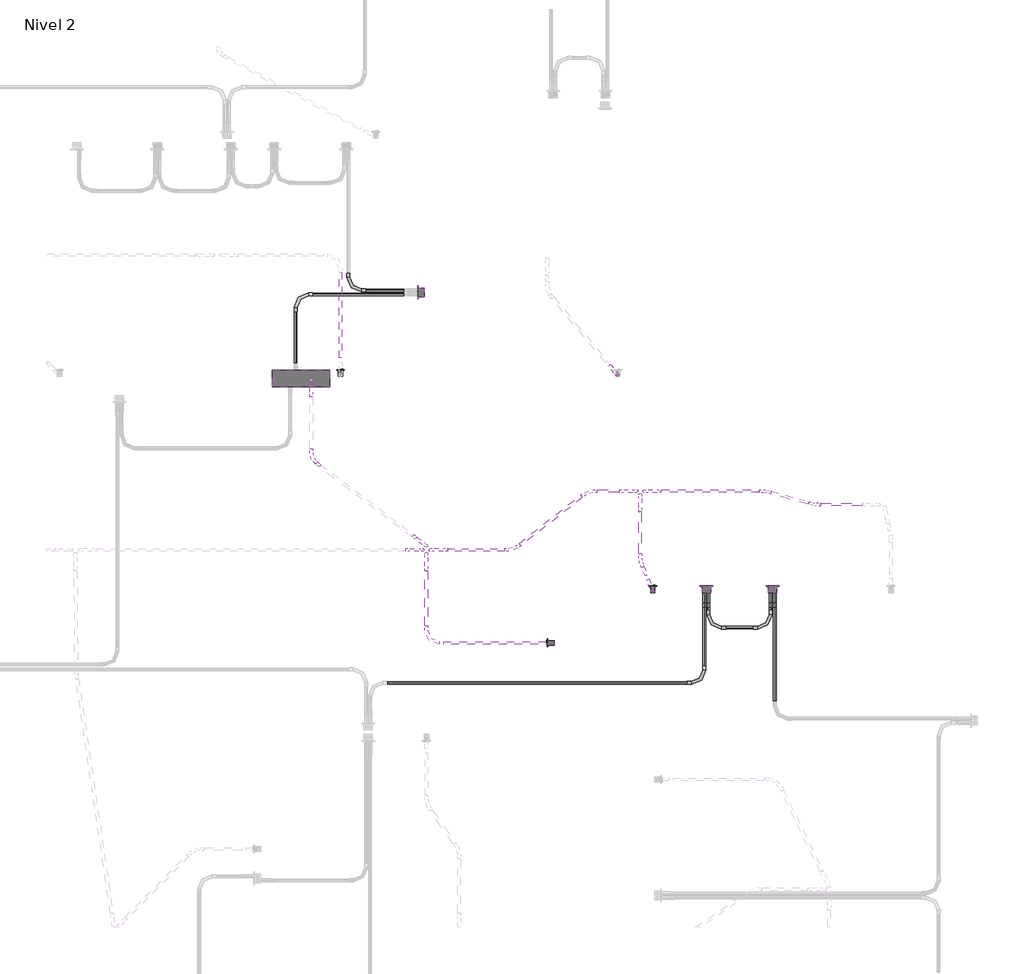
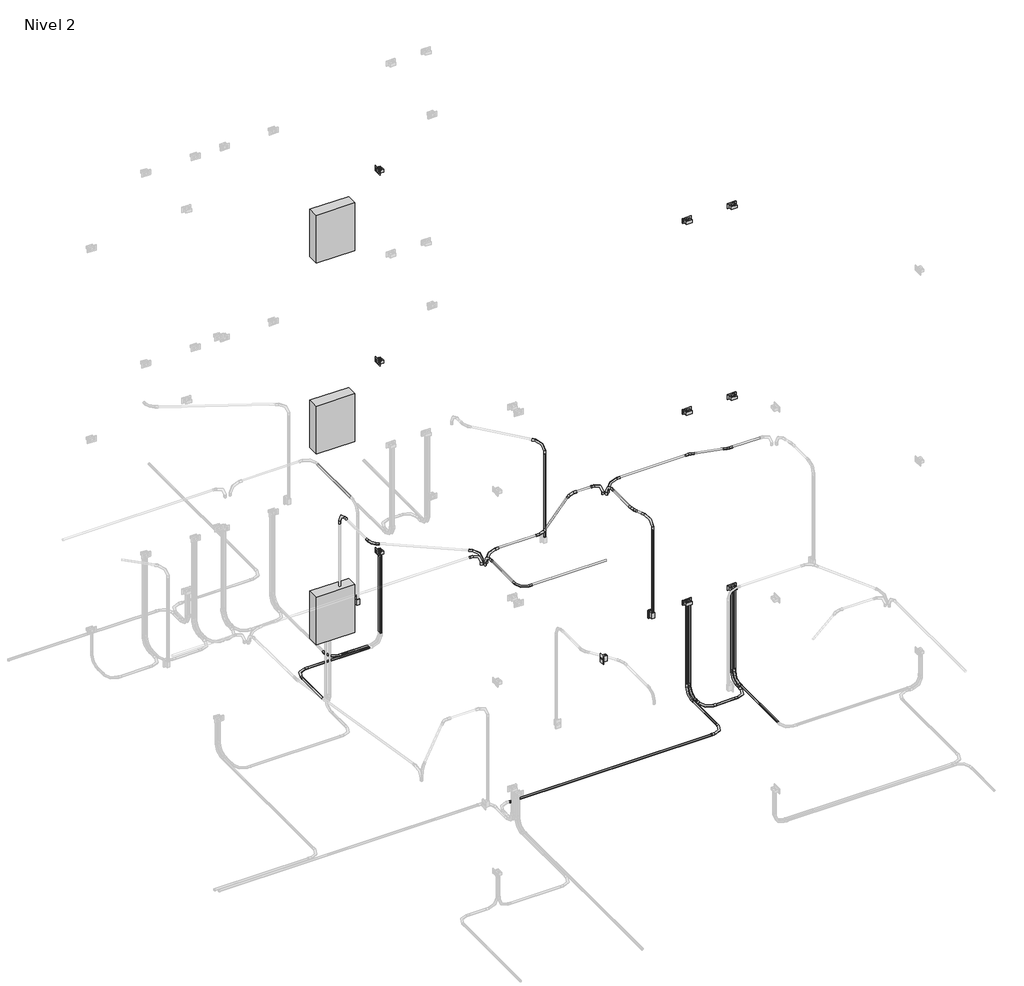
# One storey, part 4 of 10: 28 cable carrier segments, 26 cable carrier fittings, 12 proxies, 3 switching devices.
"""IFC4 building model written with IfcOpenShell, lengths in millimetres."""

from ifc_helpers import new_model, si_unit, point, frame, frame_2d, origin, place, context, project, spatial, circle_curve, trimmed, segment, composite_curve, outline, extrude, transform, mapped, element, save
from components import proxy_125_a_fe578df2, gfci_180f1b41, m_codo_de_tubo_extremo_liso_pvc_9da73e12, m_codo_de_tubo_extremo_liso_pvc_102f0f41, m_codo_de_tubo_extremo_liso_pvc_ceb821ea, m_codo_de_tubo_extremo_liso_pvc_a7355fb1, m_codo_de_tubo_extremo_liso_pvc_d450ba0d, m_codo_de_tubo_extremo_liso_pvc_c9202d06, switching_device_22fed34b

model = new_model("IFC4")

# Units and contexts
model_context = context("Model", 3, world=origin())
ifc_project = project(units=[si_unit("LENGTHUNIT", "METRE", prefix="MILLI")], contexts=[model_context])

# Site, building, storey
site = spatial("IfcSite", under=ifc_project)
building = spatial("IfcBuilding", under=site)
storey = spatial("IfcBuildingStorey", under=building, Name="Nivel 2", Elevation=2800.0)

# Proxies
placement = place(None, origin())
proxy_125_a_shape = proxy_125_a_fe578df2(model_context)
element("IfcBuildingElementProxy", 1, Name="M_Cuadro de control de accesorios e iluminación - 480V MLO : 125 A", ObjectType="M_Cuadro de control de accesorios e iluminación - 480V MLO : 125 A", at=placement, inside=storey, context=model_context, shape_type="MappedRepresentation", body=[
    mapped(proxy_125_a_shape, transform((3147.3172593, 7015.0, 3626.1274047), x_axis=(-1.0, 0.0, 0.0), y_axis=(0.0, 0.0, 1.0), z_axis=(0.0, 1.0, 0.0))),
])
element("IfcBuildingElementProxy", 2, Name="M_Cuadro de control de accesorios e iluminación - 480V MLO : 125 A", ObjectType="M_Cuadro de control de accesorios e iluminación - 480V MLO : 125 A", at=placement, inside=storey, context=model_context, shape_type="MappedRepresentation", body=[
    mapped(proxy_125_a_shape, transform((3147.3172593, 7015.0, 6276.1274047), x_axis=(-1.0, 0.0, 0.0), y_axis=(0.0, 0.0, 1.0), z_axis=(0.0, 1.0, 0.0))),
])
element("IfcBuildingElementProxy", 3, Name="M_Cuadro de control de accesorios e iluminación - 480V MLO : 125 A", ObjectType="M_Cuadro de control de accesorios e iluminación - 480V MLO : 125 A", at=placement, inside=storey, context=model_context, shape_type="MappedRepresentation", body=[
    mapped(proxy_125_a_shape, transform((3147.3172593, 7015.0, 8926.1274047), x_axis=(-1.0, 0.0, 0.0), y_axis=(0.0, 0.0, 1.0), z_axis=(0.0, 1.0, 0.0))),
])
gfci_shape = gfci_180f1b41(model_context)
element("IfcBuildingElementProxy", 4, Name="Tomacorriente doble 220V : GFCI", ObjectType="Tomacorriente doble 220V : GFCI", at=placement, inside=storey, context=model_context, shape_type="MappedRepresentation", body=[
    mapped(gfci_shape, transform((4185.0, 7705.161459, 4000.0), x_axis=(0.0, 0.0, 1.0), y_axis=(0.0, 1.0, 0.0), z_axis=(-1.0, 0.0, 0.0))),
])
element("IfcBuildingElementProxy", 5, Name="Tomacorriente doble 220V : GFCI", ObjectType="Tomacorriente doble 220V : GFCI", at=placement, inside=storey, context=model_context, shape_type="MappedRepresentation", body=[
    mapped(gfci_shape, transform((7325.0972257, 5100.0, 4000.0), x_axis=(0.0, 0.0, 1.0), y_axis=(1.0, 0.0, 0.0), z_axis=(0.0, 1.0, 0.0))),
])
element("IfcBuildingElementProxy", 6, Name="Tomacorriente doble 220V : GFCI", ObjectType="Tomacorriente doble 220V : GFCI", at=placement, inside=storey, context=model_context, shape_type="MappedRepresentation", body=[
    mapped(gfci_shape, transform((6737.4583335, 5100.0, 4000.0), x_axis=(0.0, 0.0, 1.0), y_axis=(1.0, 0.0, 0.0), z_axis=(0.0, 1.0, 0.0))),
])
element("IfcBuildingElementProxy", 7, Name="Tomacorriente doble 220V : GFCI", ObjectType="Tomacorriente doble 220V : GFCI", at=placement, inside=storey, context=model_context, shape_type="MappedRepresentation", body=[
    mapped(gfci_shape, transform((4185.0, 7705.161459, 6650.0), x_axis=(0.0, 0.0, 1.0), y_axis=(0.0, 1.0, 0.0), z_axis=(-1.0, 0.0, 0.0))),
])
element("IfcBuildingElementProxy", 8, Name="Tomacorriente doble 220V : GFCI", ObjectType="Tomacorriente doble 220V : GFCI", at=placement, inside=storey, context=model_context, shape_type="MappedRepresentation", body=[
    mapped(gfci_shape, transform((7325.0972257, 5100.0, 6650.0), x_axis=(0.0, 0.0, 1.0), y_axis=(1.0, 0.0, 0.0), z_axis=(0.0, 1.0, 0.0))),
])
element("IfcBuildingElementProxy", 9, Name="Tomacorriente doble 220V : GFCI", ObjectType="Tomacorriente doble 220V : GFCI", at=placement, inside=storey, context=model_context, shape_type="MappedRepresentation", body=[
    mapped(gfci_shape, transform((6737.4583335, 5100.0, 6650.0), x_axis=(0.0, 0.0, 1.0), y_axis=(1.0, 0.0, 0.0), z_axis=(0.0, 1.0, 0.0))),
])
element("IfcBuildingElementProxy", 10, Name="Tomacorriente doble 220V : GFCI", ObjectType="Tomacorriente doble 220V : GFCI", at=placement, inside=storey, context=model_context, shape_type="MappedRepresentation", body=[
    mapped(gfci_shape, transform((4185.0, 7705.161459, 9300.0), x_axis=(0.0, 0.0, 1.0), y_axis=(0.0, 1.0, 0.0), z_axis=(-1.0, 0.0, 0.0))),
])
element("IfcBuildingElementProxy", 11, Name="Tomacorriente doble 220V : GFCI", ObjectType="Tomacorriente doble 220V : GFCI", at=placement, inside=storey, context=model_context, shape_type="MappedRepresentation", body=[
    mapped(gfci_shape, transform((7325.0972257, 5100.0, 9300.0), x_axis=(0.0, 0.0, 1.0), y_axis=(1.0, 0.0, 0.0), z_axis=(0.0, 1.0, 0.0))),
])
element("IfcBuildingElementProxy", 12, Name="Tomacorriente doble 220V : GFCI", ObjectType="Tomacorriente doble 220V : GFCI", at=placement, inside=storey, context=model_context, shape_type="MappedRepresentation", body=[
    mapped(gfci_shape, transform((6737.4583335, 5100.0, 9300.0), x_axis=(0.0, 0.0, 1.0), y_axis=(1.0, 0.0, 0.0), z_axis=(0.0, 1.0, 0.0))),
])

# Cable carrier fittings
m_codo_de_tubo_extremo_liso_pvc_shape = m_codo_de_tubo_extremo_liso_pvc_9da73e12(model_context)
element("IfcCableCarrierFitting", 13, ObjectType="M_Codo de tubo - Extremo liso - PVC : CODO POTENCIA", at=placement, inside=storey, context=model_context, shape_type="MappedRepresentation", body=[
    mapped(m_codo_de_tubo_extremo_liso_pvc_shape, transform((3566.4756648, 7723.1932788, 2730.0), x_axis=(0.0, -1.0, 0.0), y_axis=(1.0, 0.0, 0.0), z_axis=(0.0, 0.0, 1.0))),
])
element("IfcCableCarrierFitting", 14, ObjectType="M_Codo de tubo - Extremo liso - PVC : CODO POTENCIA", at=placement, inside=storey, context=model_context, shape_type="MappedRepresentation", body=[
    mapped(m_codo_de_tubo_extremo_liso_pvc_shape, transform((3099.8874089, 7687.1296392, 2730.0), x_axis=(-1.0, 0.0, 0.0), y_axis=(0.0, -1.0, 0.0), z_axis=(0.0, 0.0, 1.0))),
])
element("IfcCableCarrierFitting", 15, ObjectType="M_Codo de tubo - Extremo liso - PVC : CODO POTENCIA", at=placement, inside=storey, context=model_context, shape_type="MappedRepresentation", body=[
    mapped(m_codo_de_tubo_extremo_liso_pvc_shape, transform((7343.1290455, 5070.3628882, 2730.0), x_axis=(0.0, 0.0, -1.0), y_axis=(0.0, -1.0, 0.0), z_axis=(-1.0, 0.0, 0.0))),
])
element("IfcCableCarrierFitting", 16, ObjectType="M_Codo de tubo - Extremo liso - PVC : CODO POTENCIA", at=placement, inside=storey, context=model_context, shape_type="MappedRepresentation", body=[
    mapped(m_codo_de_tubo_extremo_liso_pvc_shape, transform((7307.0654059, 5070.3628882, 2730.0), x_axis=(0.0, 0.0, -1.0), y_axis=(0.0, -1.0, 0.0), z_axis=(-1.0, 0.0, 0.0))),
])
element("IfcCableCarrierFitting", 17, ObjectType="M_Codo de tubo - Extremo liso - PVC : CODO POTENCIA", at=placement, inside=storey, context=model_context, shape_type="MappedRepresentation", body=[
    mapped(m_codo_de_tubo_extremo_liso_pvc_shape, transform((6755.4901534, 5070.3628882, 2730.0), x_axis=(0.0, 0.0, -1.0), y_axis=(0.0, -1.0, 0.0), z_axis=(-1.0, 0.0, 0.0))),
])
element("IfcCableCarrierFitting", 18, ObjectType="M_Codo de tubo - Extremo liso - PVC : CODO POTENCIA", at=placement, inside=storey, context=model_context, shape_type="MappedRepresentation", body=[
    mapped(m_codo_de_tubo_extremo_liso_pvc_shape, transform((6719.4265137, 5070.3628882, 2730.0), x_axis=(0.0, 0.0, -1.0), y_axis=(0.0, -1.0, 0.0), z_axis=(-1.0, 0.0, 0.0))),
])
element("IfcCableCarrierFitting", 19, ObjectType="M_Codo de tubo - Extremo liso - PVC : CODO POTENCIA", at=placement, inside=storey, context=model_context, shape_type="MappedRepresentation", body=[
    mapped(m_codo_de_tubo_extremo_liso_pvc_shape, transform((7307.0654059, 4735.4544528, 2730.0), x_axis=(1.0, 0.0, 0.0), y_axis=(0.0, 1.0, 0.0), z_axis=(0.0, 0.0, 1.0))),
])
element("IfcCableCarrierFitting", 20, ObjectType="M_Codo de tubo - Extremo liso - PVC : CODO POTENCIA", at=placement, inside=storey, context=model_context, shape_type="MappedRepresentation", body=[
    mapped(m_codo_de_tubo_extremo_liso_pvc_shape, transform((6755.4901534, 4735.4544528, 2730.0), x_axis=(0.0, -1.0, 0.0), y_axis=(1.0, 0.0, 0.0), z_axis=(0.0, 0.0, 1.0))),
])
element("IfcCableCarrierFitting", 21, ObjectType="M_Codo de tubo - Extremo liso - PVC : CODO POTENCIA", at=placement, inside=storey, context=model_context, shape_type="MappedRepresentation", body=[
    mapped(m_codo_de_tubo_extremo_liso_pvc_shape, transform((6719.4265137, 4245.3628882, 2730.0), x_axis=(1.0, 0.0, 0.0), y_axis=(0.0, 1.0, 0.0), z_axis=(0.0, 0.0, 1.0))),
])
element("IfcCableCarrierFitting", 22, ObjectType="M_Codo de tubo - Extremo liso - PVC : CODO ILUMINACION", at=placement, inside=storey, context=model_context, shape_type="MappedRepresentation", body=[
    mapped(m_codo_de_tubo_extremo_liso_pvc_shape, transform((4293.3404165, 5423.1835713, 5350.0), x_axis=(-1.0, 0.0, 0.0), y_axis=(0.0, 0.0, -1.0), z_axis=(0.0, -1.0, 0.0))),
])
element("IfcCableCarrierFitting", 23, ObjectType="M_Codo de tubo - Extremo liso - PVC : CODO ILUMINACION", at=placement, inside=storey, context=model_context, shape_type="MappedRepresentation", body=[
    mapped(m_codo_de_tubo_extremo_liso_pvc_shape, transform((6187.5450067, 5945.2494875, 5350.0), x_axis=(-1.0, 0.0, 0.0), y_axis=(0.0, 0.0, -1.0), z_axis=(0.0, -1.0, 0.0))),
])
element("IfcCableCarrierFitting", 24, ObjectType="M_Codo de tubo - Extremo liso - PVC : CODO ILUMINACION", at=placement, inside=storey, context=model_context, shape_type="MappedRepresentation", body=[
    mapped(m_codo_de_tubo_extremo_liso_pvc_shape, transform((4257.1192172, 5391.3745096, 5350.0), x_axis=(0.0, 1.0, 0.0), y_axis=(0.0, 0.0, -1.0), z_axis=(-1.0, 0.0, 0.0))),
])
element("IfcCableCarrierFitting", 25, ObjectType="M_Codo de tubo - Extremo liso - PVC : CODO ILUMINACION", at=placement, inside=storey, context=model_context, shape_type="MappedRepresentation", body=[
    mapped(m_codo_de_tubo_extremo_liso_pvc_shape, transform((4257.1192172, 4599.1450877, 5350.0), x_axis=(0.0, -1.0, 0.0), y_axis=(1.0, 0.0, 0.0), z_axis=(0.0, 0.0, 1.0))),
])
element("IfcCableCarrierFitting", 26, ObjectType="M_Codo de tubo - Extremo liso - PVC : CODO ILUMINACION", at=placement, inside=storey, context=model_context, shape_type="MappedRepresentation", body=[
    mapped(m_codo_de_tubo_extremo_liso_pvc_shape, transform((6151.3238073, 5913.4404259, 5350.0), x_axis=(0.0, 1.0, 0.0), y_axis=(0.0, 0.0, -1.0), z_axis=(-1.0, 0.0, 0.0))),
])
element("IfcCableCarrierFitting", 27, ObjectType="M_Codo de tubo - Extremo liso - PVC : CODO ILUMINACION", at=placement, inside=storey, context=model_context, shape_type="MappedRepresentation", body=[
    mapped(m_codo_de_tubo_extremo_liso_pvc_shape, transform((6262.8378124, 5056.8611243, 5350.0), x_axis=(0.0, 0.0, 1.0), y_axis=(-0.3790250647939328, 0.9253864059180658, 0.0), z_axis=(-0.9253864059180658, -0.3790250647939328, 0.0))),
])
element("IfcCableCarrierFitting", 28, ObjectType="M_Codo de tubo - Extremo liso - PVC : CODO ILUMINACION", at=placement, inside=storey, context=model_context, shape_type="MappedRepresentation", body=[
    mapped(m_codo_de_tubo_extremo_liso_pvc_shape, transform((3238.5891384, 6934.3825168, 5350.0), x_axis=(0.0, 1.0, 0.0), y_axis=(0.0, 0.0, -1.0), z_axis=(-1.0, 0.0, 0.0))),
])
element("IfcCableCarrierFitting", 29, ObjectType="M_Codo de tubo - Extremo liso - PVC : CODO ILUMINACION", at=placement, inside=storey, context=model_context, shape_type="MappedRepresentation", body=[
    mapped(m_codo_de_tubo_extremo_liso_pvc_shape, transform((5952.4011855, 6971.8611243, 5350.0), x_axis=(0.0, 0.0, 1.0), y_axis=(-0.6427876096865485, 0.7660444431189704, 0.0), z_axis=(-0.7660444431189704, -0.6427876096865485, 0.0))),
])
m_codo_de_tubo_extremo_liso_pvc_2_shape = m_codo_de_tubo_extremo_liso_pvc_102f0f41(model_context)
element("IfcCableCarrierFitting", 30, ObjectType="M_Codo de tubo - Extremo liso - PVC : CODO ILUMINACION", at=placement, inside=storey, context=model_context, shape_type="MappedRepresentation", body=[
    mapped(m_codo_de_tubo_extremo_liso_pvc_2_shape, transform((4225.3101555, 5423.1835713, 5350.0), x_axis=(1.0, 0.0, 0.0), y_axis=(0.0, 0.0, 1.0), z_axis=(0.0, -1.0, 0.0))),
])
element("IfcCableCarrierFitting", 31, ObjectType="M_Codo de tubo - Extremo liso - PVC : CODO ILUMINACION", at=placement, inside=storey, context=model_context, shape_type="MappedRepresentation", body=[
    mapped(m_codo_de_tubo_extremo_liso_pvc_2_shape, transform((6119.5147457, 5945.2494875, 5350.0), x_axis=(1.0, 0.0, 0.0), y_axis=(0.0, 0.0, 1.0), z_axis=(0.0, -1.0, 0.0))),
])
element("IfcCableCarrierFitting", 32, ObjectType="M_Codo de tubo - Extremo liso - PVC : CODO ILUMINACION", at=placement, inside=storey, context=model_context, shape_type="MappedRepresentation", body=[
    mapped(m_codo_de_tubo_extremo_liso_pvc_2_shape, transform((4258.2410998, 5458.3054211, 5350.0), x_axis=(0.798635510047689, -0.6018150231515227, 0.0), y_axis=(0.0, 0.0, 1.0), z_axis=(-0.6018150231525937, -0.7986355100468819, 0.0))),
])
m_codo_de_tubo_extremo_liso_pvc_3_shape = m_codo_de_tubo_extremo_liso_pvc_ceb821ea(model_context)
element("IfcCableCarrierFitting", 33, ObjectType="M_Codo de tubo - Extremo liso - PVC : CODO ILUMINACION", at=placement, inside=storey, context=model_context, shape_type="MappedRepresentation", body=[
    mapped(m_codo_de_tubo_extremo_liso_pvc_3_shape, transform((7259.9450067, 5945.2494875, 5350.0), x_axis=(-0.9646302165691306, 0.2636068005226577, 0.0), y_axis=(-0.2636068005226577, -0.9646302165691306, 0.0), z_axis=(0.0, 0.0, 1.0))),
])
element("IfcCableCarrierFitting", 34, ObjectType="M_Codo de tubo - Extremo liso - PVC : CODO ILUMINACION", at=placement, inside=storey, context=model_context, shape_type="MappedRepresentation", body=[
    mapped(m_codo_de_tubo_extremo_liso_pvc_3_shape, transform((7696.9235905, 5825.8353075, 5350.0), x_axis=(0.9646302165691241, -0.2636068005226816, 0.0), y_axis=(0.2636068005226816, 0.9646302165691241, 0.0), z_axis=(0.0, 0.0, 1.0))),
])
m_codo_de_tubo_extremo_liso_pvc_4_shape = m_codo_de_tubo_extremo_liso_pvc_a7355fb1(model_context)
element("IfcCableCarrierFitting", 35, ObjectType="M_Codo de tubo - Extremo liso - PVC : CODO ILUMINACION", at=placement, inside=storey, context=model_context, shape_type="MappedRepresentation", body=[
    mapped(m_codo_de_tubo_extremo_liso_pvc_4_shape, transform((5693.9543175, 5945.2494875, 5350.0), x_axis=(-1.0, 0.0, 0.0), y_axis=(0.0, -1.0, 0.0), z_axis=(0.0, 0.0, 1.0))),
])
element("IfcCableCarrierFitting", 36, ObjectType="M_Codo de tubo - Extremo liso - PVC : CODO ILUMINACION", at=placement, inside=storey, context=model_context, shape_type="MappedRepresentation", body=[
    mapped(m_codo_de_tubo_extremo_liso_pvc_4_shape, transform((5025.7404165, 5423.1835713, 5350.0), x_axis=(1.0, 0.0, 0.0), y_axis=(0.0, 1.0, 0.0), z_axis=(0.0, 0.0, 1.0))),
])
m_codo_de_tubo_extremo_liso_pvc_5_shape = m_codo_de_tubo_extremo_liso_pvc_d450ba0d(model_context)
element("IfcCableCarrierFitting", 37, ObjectType="M_Codo de tubo - Extremo liso - PVC : CODO ILUMINACION", at=placement, inside=storey, context=model_context, shape_type="MappedRepresentation", body=[
    mapped(m_codo_de_tubo_extremo_liso_pvc_5_shape, transform((6151.3238073, 5329.1215998, 5350.0), x_axis=(0.0, -1.0, 0.0), y_axis=(1.0, 0.0, 0.0), z_axis=(0.0, 0.0, 1.0))),
])
m_codo_de_tubo_extremo_liso_pvc_6_shape = m_codo_de_tubo_extremo_liso_pvc_c9202d06(model_context)
element("IfcCableCarrierFitting", 38, ObjectType="M_Codo de tubo - Extremo liso - PVC : CODO ILUMINACION", at=placement, inside=storey, context=model_context, shape_type="MappedRepresentation", body=[
    mapped(m_codo_de_tubo_extremo_liso_pvc_6_shape, transform((3238.5891384, 6226.6682863, 5350.0), x_axis=(0.0, -1.0, 0.0), y_axis=(1.0, 0.0, 0.0), z_axis=(0.0, 0.0, 1.0))),
])

# Cable carrier segments
element("IfcCableCarrierSegment", 39, ObjectType="PVC-SEL, POTENCIA", at=placement, inside=storey, context=model_context, shape_type="SweptSolid", body=[
    extrude(outline(composite_curve([segment(trimmed(circle_curve(frame_2d((7723.1932788, 2730.0)), 11.71), [point((7711.4832788, 2730.0))], [point((7723.1932788, 2741.71))], False, "CARTESIAN"), True, "CONTINUOUS"), segment(trimmed(circle_curve(frame_2d((7723.1932788, 2730.0)), 11.71), [point((7723.1932788, 2741.71))], [point((7734.9032788, 2730.0))], False, "CARTESIAN"), True, "CONTINUOUS"), segment(trimmed(circle_curve(frame_2d((7723.1932788, 2730.0)), 11.71), [point((7734.9032788, 2730.0))], [point((7723.1932788, 2718.29))], False, "CARTESIAN"), True, "CONTINUOUS"), segment(trimmed(circle_curve(frame_2d((7723.1932788, 2730.0)), 11.71), [point((7723.1932788, 2718.29))], [point((7711.4832788, 2730.0))], False, "CARTESIAN"), True, "CONTINUOUS")], self_intersect=False)), frame((3718.8756648, 0.0, 0.0), z_axis=(1.0, 0.0, 0.0), x_axis=(0.0, 1.0, 0.0)), (0.0, 0.0, 1.0), 343.361447),
])
element("IfcCableCarrierSegment", 40, ObjectType="PVC-SEL, POTENCIA", at=placement, inside=storey, context=model_context, shape_type="SweptSolid", body=[
    extrude(outline(composite_curve([segment(trimmed(circle_curve(frame_2d((4214.6371118, 7723.1932788)), 11.71), [point((4226.3471118, 7723.1932788))], [point((4214.6371118, 7711.4832788))], False, "CARTESIAN"), True, "CONTINUOUS"), segment(trimmed(circle_curve(frame_2d((4214.6371118, 7723.1932788)), 11.71), [point((4214.6371118, 7711.4832788))], [point((4202.9271118, 7723.1932788))], False, "CARTESIAN"), True, "CONTINUOUS"), segment(trimmed(circle_curve(frame_2d((4214.6371118, 7723.1932788)), 11.71), [point((4202.9271118, 7723.1932788))], [point((4214.6371118, 7734.9032788))], False, "CARTESIAN"), True, "CONTINUOUS"), segment(trimmed(circle_curve(frame_2d((4214.6371118, 7723.1932788)), 11.71), [point((4214.6371118, 7734.9032788))], [point((4226.3471118, 7723.1932788))], False, "CARTESIAN"), True, "CONTINUOUS")], self_intersect=False)), frame((0.0, 0.0, 2882.4), z_axis=(0.0, 0.0, 1.0), x_axis=(1.0, 0.0, 0.0)), (0.0, 0.0, 1.0), 1097.3020537),
])
element("IfcCableCarrierSegment", 41, ObjectType="PVC-SEL, POTENCIA", at=placement, inside=storey, context=model_context, shape_type="SweptSolid", body=[
    extrude(outline(composite_curve([segment(trimmed(circle_curve(frame_2d((7687.1296392, 2730.0)), 11.71), [point((7698.8396392, 2730.0))], [point((7687.1296392, 2718.29))], False, "CARTESIAN"), True, "CONTINUOUS"), segment(trimmed(circle_curve(frame_2d((7687.1296392, 2730.0)), 11.71), [point((7687.1296392, 2718.29))], [point((7675.4196392, 2730.0))], False, "CARTESIAN"), True, "CONTINUOUS"), segment(trimmed(circle_curve(frame_2d((7687.1296392, 2730.0)), 11.71), [point((7675.4196392, 2730.0))], [point((7687.1296392, 2741.71))], False, "CARTESIAN"), True, "CONTINUOUS"), segment(trimmed(circle_curve(frame_2d((7687.1296392, 2730.0)), 11.71), [point((7687.1296392, 2741.71))], [point((7698.8396392, 2730.0))], False, "CARTESIAN"), True, "CONTINUOUS")], self_intersect=False)), frame((3252.2874089, 0.0, 0.0), z_axis=(1.0, 0.0, 0.0), x_axis=(0.0, 1.0, 0.0)), (0.0, 0.0, 1.0), 809.9497029),
])
element("IfcCableCarrierSegment", 42, ObjectType="PVC-SEL, POTENCIA", at=placement, inside=storey, context=model_context, shape_type="SweptSolid", body=[
    extrude(outline(composite_curve([segment(trimmed(circle_curve(frame_2d((4214.6371118, 7687.1296392)), 11.71), [point((4226.3471118, 7687.1296392))], [point((4214.6371118, 7675.4196392))], False, "CARTESIAN"), True, "CONTINUOUS"), segment(trimmed(circle_curve(frame_2d((4214.6371118, 7687.1296392)), 11.71), [point((4214.6371118, 7675.4196392))], [point((4202.9271118, 7687.1296392))], False, "CARTESIAN"), True, "CONTINUOUS"), segment(trimmed(circle_curve(frame_2d((4214.6371118, 7687.1296392)), 11.71), [point((4202.9271118, 7687.1296392))], [point((4214.6371118, 7698.8396392))], False, "CARTESIAN"), True, "CONTINUOUS"), segment(trimmed(circle_curve(frame_2d((4214.6371118, 7687.1296392)), 11.71), [point((4214.6371118, 7698.8396392))], [point((4226.3471118, 7687.1296392))], False, "CARTESIAN"), True, "CONTINUOUS")], self_intersect=False)), frame((0.0, 0.0, 2882.4), z_axis=(0.0, 0.0, 1.0), x_axis=(1.0, 0.0, 0.0)), (0.0, 0.0, 1.0), 1097.3020537),
])
element("IfcCableCarrierSegment", 43, ObjectType="PVC-SEL, POTENCIA", at=placement, inside=storey, context=model_context, shape_type="SweptSolid", body=[
    extrude(outline(composite_curve([segment(trimmed(circle_curve(frame_2d((2730.0, 3099.8874089)), 11.71), [point((2730.0, 3088.1774089))], [point((2718.29, 3099.8874089))], False, "CARTESIAN"), True, "CONTINUOUS"), segment(trimmed(circle_curve(frame_2d((2730.0, 3099.8874089)), 11.71), [point((2718.29, 3099.8874089))], [point((2730.0, 3111.5974089))], False, "CARTESIAN"), True, "CONTINUOUS"), segment(trimmed(circle_curve(frame_2d((2730.0, 3099.8874089)), 11.71), [point((2730.0, 3111.5974089))], [point((2741.71, 3099.8874089))], False, "CARTESIAN"), True, "CONTINUOUS"), segment(trimmed(circle_curve(frame_2d((2730.0, 3099.8874089)), 11.71), [point((2741.71, 3099.8874089))], [point((2730.0, 3088.1774089))], False, "CARTESIAN"), True, "CONTINUOUS")], self_intersect=False)), frame((0.0, 7077.0371118, 0.0), z_axis=(0.0, 1.0, 0.0), x_axis=(0.0, 0.0, 1.0)), (0.0, 0.0, 1.0), 457.6925274),
])
element("IfcCableCarrierSegment", 44, ObjectType="PVC-SEL, POTENCIA", at=placement, inside=storey, context=model_context, shape_type="SweptSolid", body=[
    extrude(outline(composite_curve([segment(trimmed(circle_curve(frame_2d((2730.0, 7343.1290455)), 11.71), [point((2730.0, 7331.4190455))], [point((2718.29, 7343.1290455))], False, "CARTESIAN"), True, "CONTINUOUS"), segment(trimmed(circle_curve(frame_2d((2730.0, 7343.1290455)), 11.71), [point((2718.29, 7343.1290455))], [point((2730.0, 7354.8390455))], False, "CARTESIAN"), True, "CONTINUOUS"), segment(trimmed(circle_curve(frame_2d((2730.0, 7343.1290455)), 11.71), [point((2730.0, 7354.8390455))], [point((2741.71, 7343.1290455))], False, "CARTESIAN"), True, "CONTINUOUS"), segment(trimmed(circle_curve(frame_2d((2730.0, 7343.1290455)), 11.71), [point((2741.71, 7343.1290455))], [point((2730.0, 7331.4190455))], False, "CARTESIAN"), True, "CONTINUOUS")], self_intersect=False)), frame((0.0, 4082.2436623, 0.0), z_axis=(0.0, 1.0, 0.0), x_axis=(0.0, 0.0, 1.0)), (0.0, 0.0, 1.0), 835.7192259),
])
element("IfcCableCarrierSegment", 45, ObjectType="PVC-SEL, POTENCIA", at=placement, inside=storey, context=model_context, shape_type="SweptSolid", body=[
    extrude(outline(composite_curve([segment(trimmed(circle_curve(frame_2d((7343.1290455, 5070.3628882)), 11.71), [point((7354.8390455, 5070.3628882))], [point((7343.1290455, 5058.6528882))], False, "CARTESIAN"), True, "CONTINUOUS"), segment(trimmed(circle_curve(frame_2d((7343.1290455, 5070.3628882)), 11.71), [point((7343.1290455, 5058.6528882))], [point((7331.4190455, 5070.3628882))], False, "CARTESIAN"), True, "CONTINUOUS"), segment(trimmed(circle_curve(frame_2d((7343.1290455, 5070.3628882)), 11.71), [point((7331.4190455, 5070.3628882))], [point((7343.1290455, 5082.0728882))], False, "CARTESIAN"), True, "CONTINUOUS"), segment(trimmed(circle_curve(frame_2d((7343.1290455, 5070.3628882)), 11.71), [point((7343.1290455, 5082.0728882))], [point((7354.8390455, 5070.3628882))], False, "CARTESIAN"), True, "CONTINUOUS")], self_intersect=False)), frame((0.0, 0.0, 2882.4), z_axis=(0.0, 0.0, 1.0), x_axis=(1.0, 0.0, 0.0)), (0.0, 0.0, 1.0), 1097.3020537),
])
element("IfcCableCarrierSegment", 46, ObjectType="PVC-SEL, POTENCIA", at=placement, inside=storey, context=model_context, shape_type="SweptSolid", body=[
    extrude(outline(composite_curve([segment(trimmed(circle_curve(frame_2d((2730.0, 7307.0654059)), 11.71), [point((2730.0, 7295.3554059))], [point((2718.29, 7307.0654059))], False, "CARTESIAN"), True, "CONTINUOUS"), segment(trimmed(circle_curve(frame_2d((2730.0, 7307.0654059)), 11.71), [point((2718.29, 7307.0654059))], [point((2730.0, 7318.7754059))], False, "CARTESIAN"), True, "CONTINUOUS"), segment(trimmed(circle_curve(frame_2d((2730.0, 7307.0654059)), 11.71), [point((2730.0, 7318.7754059))], [point((2741.71, 7307.0654059))], False, "CARTESIAN"), True, "CONTINUOUS"), segment(trimmed(circle_curve(frame_2d((2730.0, 7307.0654059)), 11.71), [point((2741.71, 7307.0654059))], [point((2730.0, 7295.3554059))], False, "CARTESIAN"), True, "CONTINUOUS")], self_intersect=False)), frame((0.0, 4887.8544528, 0.0), z_axis=(0.0, 1.0, 0.0), x_axis=(0.0, 0.0, 1.0)), (0.0, 0.0, 1.0), 30.1084355),
])
element("IfcCableCarrierSegment", 47, ObjectType="PVC-SEL, POTENCIA", at=placement, inside=storey, context=model_context, shape_type="SweptSolid", body=[
    extrude(outline(composite_curve([segment(trimmed(circle_curve(frame_2d((7307.0654059, 5070.3628882)), 11.71), [point((7318.7754059, 5070.3628882))], [point((7307.0654059, 5058.6528882))], False, "CARTESIAN"), True, "CONTINUOUS"), segment(trimmed(circle_curve(frame_2d((7307.0654059, 5070.3628882)), 11.71), [point((7307.0654059, 5058.6528882))], [point((7295.3554059, 5070.3628882))], False, "CARTESIAN"), True, "CONTINUOUS"), segment(trimmed(circle_curve(frame_2d((7307.0654059, 5070.3628882)), 11.71), [point((7295.3554059, 5070.3628882))], [point((7307.0654059, 5082.0728882))], False, "CARTESIAN"), True, "CONTINUOUS"), segment(trimmed(circle_curve(frame_2d((7307.0654059, 5070.3628882)), 11.71), [point((7307.0654059, 5082.0728882))], [point((7318.7754059, 5070.3628882))], False, "CARTESIAN"), True, "CONTINUOUS")], self_intersect=False)), frame((0.0, 0.0, 2882.4), z_axis=(0.0, 0.0, 1.0), x_axis=(1.0, 0.0, 0.0)), (0.0, 0.0, 1.0), 1097.3020537),
])
element("IfcCableCarrierSegment", 48, ObjectType="PVC-SEL, POTENCIA", at=placement, inside=storey, context=model_context, shape_type="SweptSolid", body=[
    extrude(outline(composite_curve([segment(trimmed(circle_curve(frame_2d((2730.0, 6755.4901534)), 11.71), [point((2730.0, 6743.7801534))], [point((2718.29, 6755.4901534))], False, "CARTESIAN"), True, "CONTINUOUS"), segment(trimmed(circle_curve(frame_2d((2730.0, 6755.4901534)), 11.71), [point((2718.29, 6755.4901534))], [point((2730.0, 6767.2001534))], False, "CARTESIAN"), True, "CONTINUOUS"), segment(trimmed(circle_curve(frame_2d((2730.0, 6755.4901534)), 11.71), [point((2730.0, 6767.2001534))], [point((2741.71, 6755.4901534))], False, "CARTESIAN"), True, "CONTINUOUS"), segment(trimmed(circle_curve(frame_2d((2730.0, 6755.4901534)), 11.71), [point((2741.71, 6755.4901534))], [point((2730.0, 6743.7801534))], False, "CARTESIAN"), True, "CONTINUOUS")], self_intersect=False)), frame((0.0, 4887.8544528, 0.0), z_axis=(0.0, 1.0, 0.0), x_axis=(0.0, 0.0, 1.0)), (0.0, 0.0, 1.0), 30.1084355),
])
element("IfcCableCarrierSegment", 49, ObjectType="PVC-SEL, POTENCIA", at=placement, inside=storey, context=model_context, shape_type="SweptSolid", body=[
    extrude(outline(composite_curve([segment(trimmed(circle_curve(frame_2d((6755.4901534, 5070.3628882)), 11.71), [point((6767.2001534, 5070.3628882))], [point((6755.4901534, 5058.6528882))], False, "CARTESIAN"), True, "CONTINUOUS"), segment(trimmed(circle_curve(frame_2d((6755.4901534, 5070.3628882)), 11.71), [point((6755.4901534, 5058.6528882))], [point((6743.7801534, 5070.3628882))], False, "CARTESIAN"), True, "CONTINUOUS"), segment(trimmed(circle_curve(frame_2d((6755.4901534, 5070.3628882)), 11.71), [point((6743.7801534, 5070.3628882))], [point((6755.4901534, 5082.0728882))], False, "CARTESIAN"), True, "CONTINUOUS"), segment(trimmed(circle_curve(frame_2d((6755.4901534, 5070.3628882)), 11.71), [point((6755.4901534, 5082.0728882))], [point((6767.2001534, 5070.3628882))], False, "CARTESIAN"), True, "CONTINUOUS")], self_intersect=False)), frame((0.0, 0.0, 2882.4), z_axis=(0.0, 0.0, 1.0), x_axis=(1.0, 0.0, 0.0)), (0.0, 0.0, 1.0), 1097.3020537),
])
element("IfcCableCarrierSegment", 50, ObjectType="PVC-SEL, POTENCIA", at=placement, inside=storey, context=model_context, shape_type="SweptSolid", body=[
    extrude(outline(composite_curve([segment(trimmed(circle_curve(frame_2d((2730.0, 6719.4265137)), 11.71), [point((2730.0, 6707.7165137))], [point((2718.29, 6719.4265137))], False, "CARTESIAN"), True, "CONTINUOUS"), segment(trimmed(circle_curve(frame_2d((2730.0, 6719.4265137)), 11.71), [point((2718.29, 6719.4265137))], [point((2730.0, 6731.1365137))], False, "CARTESIAN"), True, "CONTINUOUS"), segment(trimmed(circle_curve(frame_2d((2730.0, 6719.4265137)), 11.71), [point((2730.0, 6731.1365137))], [point((2741.71, 6719.4265137))], False, "CARTESIAN"), True, "CONTINUOUS"), segment(trimmed(circle_curve(frame_2d((2730.0, 6719.4265137)), 11.71), [point((2741.71, 6719.4265137))], [point((2730.0, 6707.7165137))], False, "CARTESIAN"), True, "CONTINUOUS")], self_intersect=False)), frame((0.0, 4397.7628882, 0.0), z_axis=(0.0, 1.0, 0.0), x_axis=(0.0, 0.0, 1.0)), (0.0, 0.0, 1.0), 520.2),
])
element("IfcCableCarrierSegment", 51, ObjectType="PVC-SEL, POTENCIA", at=placement, inside=storey, context=model_context, shape_type="SweptSolid", body=[
    extrude(outline(composite_curve([segment(trimmed(circle_curve(frame_2d((6719.4265137, 5070.3628882)), 11.71), [point((6731.1365137, 5070.3628882))], [point((6719.4265137, 5058.6528882))], False, "CARTESIAN"), True, "CONTINUOUS"), segment(trimmed(circle_curve(frame_2d((6719.4265137, 5070.3628882)), 11.71), [point((6719.4265137, 5058.6528882))], [point((6707.7165137, 5070.3628882))], False, "CARTESIAN"), True, "CONTINUOUS"), segment(trimmed(circle_curve(frame_2d((6719.4265137, 5070.3628882)), 11.71), [point((6707.7165137, 5070.3628882))], [point((6719.4265137, 5082.0728882))], False, "CARTESIAN"), True, "CONTINUOUS"), segment(trimmed(circle_curve(frame_2d((6719.4265137, 5070.3628882)), 11.71), [point((6719.4265137, 5082.0728882))], [point((6731.1365137, 5070.3628882))], False, "CARTESIAN"), True, "CONTINUOUS")], self_intersect=False)), frame((0.0, 0.0, 2882.4), z_axis=(0.0, 0.0, 1.0), x_axis=(1.0, 0.0, 0.0)), (0.0, 0.0, 1.0), 1097.3020537),
])
element("IfcCableCarrierSegment", 52, ObjectType="PVC-SEL, POTENCIA", at=placement, inside=storey, context=model_context, shape_type="SweptSolid", body=[
    extrude(outline(composite_curve([segment(trimmed(circle_curve(frame_2d((4735.4544528, 2730.0)), 11.71), [point((4747.1644528, 2730.0))], [point((4735.4544528, 2718.29))], False, "CARTESIAN"), True, "CONTINUOUS"), segment(trimmed(circle_curve(frame_2d((4735.4544528, 2730.0)), 11.71), [point((4735.4544528, 2718.29))], [point((4723.7444528, 2730.0))], False, "CARTESIAN"), True, "CONTINUOUS"), segment(trimmed(circle_curve(frame_2d((4735.4544528, 2730.0)), 11.71), [point((4723.7444528, 2730.0))], [point((4735.4544528, 2741.71))], False, "CARTESIAN"), True, "CONTINUOUS"), segment(trimmed(circle_curve(frame_2d((4735.4544528, 2730.0)), 11.71), [point((4735.4544528, 2741.71))], [point((4747.1644528, 2730.0))], False, "CARTESIAN"), True, "CONTINUOUS")], self_intersect=False)), frame((6907.8901534, 0.0, 0.0), z_axis=(1.0, 0.0, 0.0), x_axis=(0.0, 1.0, 0.0)), (0.0, 0.0, 1.0), 246.7752525),
])
element("IfcCableCarrierSegment", 53, ObjectType="PVC-SEL, POTENCIA", at=placement, inside=storey, context=model_context, shape_type="SweptSolid", body=[
    extrude(outline(composite_curve([segment(trimmed(circle_curve(frame_2d((4245.3628882, 2730.0)), 11.71), [point((4257.0728882, 2730.0))], [point((4245.3628882, 2718.29))], False, "CARTESIAN"), True, "CONTINUOUS"), segment(trimmed(circle_curve(frame_2d((4245.3628882, 2730.0)), 11.71), [point((4245.3628882, 2718.29))], [point((4233.6528882, 2730.0))], False, "CARTESIAN"), True, "CONTINUOUS"), segment(trimmed(circle_curve(frame_2d((4245.3628882, 2730.0)), 11.71), [point((4233.6528882, 2730.0))], [point((4245.3628882, 2741.71))], False, "CARTESIAN"), True, "CONTINUOUS"), segment(trimmed(circle_curve(frame_2d((4245.3628882, 2730.0)), 11.71), [point((4245.3628882, 2741.71))], [point((4257.0728882, 2730.0))], False, "CARTESIAN"), True, "CONTINUOUS")], self_intersect=False)), frame((3911.7670122, 0.0, 0.0), z_axis=(1.0, 0.0, 0.0), x_axis=(0.0, 1.0, 0.0)), (0.0, 0.0, 1.0), 2655.2595015),
])
element("IfcCableCarrierSegment", 54, ObjectType="PVC-SEL ILUMINACION", at=placement, inside=storey, context=model_context, shape_type="SweptSolid", body=[
    extrude(outline(composite_curve([segment(trimmed(circle_curve(frame_2d((5945.2494875, 5350.0)), 11.71), [point((5933.5394875, 5350.0))], [point((5945.2494875, 5361.71))], False, "CARTESIAN"), True, "CONTINUOUS"), segment(trimmed(circle_curve(frame_2d((5945.2494875, 5350.0)), 11.71), [point((5945.2494875, 5361.71))], [point((5956.9594875, 5350.0))], False, "CARTESIAN"), True, "CONTINUOUS"), segment(trimmed(circle_curve(frame_2d((5945.2494875, 5350.0)), 11.71), [point((5956.9594875, 5350.0))], [point((5945.2494875, 5338.29))], False, "CARTESIAN"), True, "CONTINUOUS"), segment(trimmed(circle_curve(frame_2d((5945.2494875, 5350.0)), 11.71), [point((5945.2494875, 5338.29))], [point((5933.5394875, 5350.0))], False, "CARTESIAN"), True, "CONTINUOUS")], self_intersect=False)), frame((6339.9450067, 0.0, 0.0), z_axis=(1.0, 0.0, 0.0), x_axis=(0.0, 1.0, 0.0)), (0.0, 0.0, 1.0), 866.5636497),
])
element("IfcCableCarrierSegment", 55, ObjectType="PVC-SEL ILUMINACION", at=placement, inside=storey, context=model_context, shape_type="SweptSolid", body=[
    extrude(outline(composite_curve([segment(trimmed(circle_curve(frame_2d((5825.8353075, 5350.0)), 11.71), [point((5837.5453075, 5350.0))], [point((5825.8353075, 5338.29))], False, "CARTESIAN"), True, "CONTINUOUS"), segment(trimmed(circle_curve(frame_2d((5825.8353075, 5350.0)), 11.71), [point((5825.8353075, 5338.29))], [point((5814.1253075, 5350.0))], False, "CARTESIAN"), True, "CONTINUOUS"), segment(trimmed(circle_curve(frame_2d((5825.8353075, 5350.0)), 11.71), [point((5814.1253075, 5350.0))], [point((5825.8353075, 5361.71))], False, "CARTESIAN"), True, "CONTINUOUS"), segment(trimmed(circle_curve(frame_2d((5825.8353075, 5350.0)), 11.71), [point((5825.8353075, 5361.71))], [point((5837.5453075, 5350.0))], False, "CARTESIAN"), True, "CONTINUOUS")], self_intersect=False)), frame((7750.3599408, 0.0, 0.0), z_axis=(1.0, 0.0, 0.0), x_axis=(0.0, 1.0, 0.0)), (0.0, 0.0, 1.0), 366.5636497),
])
element("IfcCableCarrierSegment", 56, ObjectType="PVC-SEL ILUMINACION", at=placement, inside=storey, context=model_context, shape_type="SweptSolid", body=[
    extrude(outline(composite_curve([segment(trimmed(circle_curve(frame_2d((0.0, -11.71)), 11.71), [point((-11.71, -11.71))], [point((0.0, 0.0))], False, "CARTESIAN"), True, "CONTINUOUS"), segment(trimmed(circle_curve(frame_2d((0.0, -11.71)), 11.71), [point((0.0, 0.0))], [point((11.7100001, -11.71))], False, "CARTESIAN"), True, "CONTINUOUS"), segment(trimmed(circle_curve(frame_2d((0.0, -11.71)), 11.71), [point((11.7100001, -11.71))], [point((0.0, -23.42))], False, "CARTESIAN"), True, "CONTINUOUS"), segment(trimmed(circle_curve(frame_2d((0.0, -11.71)), 11.71), [point((0.0, -23.42))], [point((-11.71, -11.71))], False, "CARTESIAN"), True, "CONTINUOUS")], self_intersect=False)), frame((7645.3772723, 5839.9214928, 5338.29), z_axis=(-0.9646302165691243, 0.26360680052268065, 0.0), x_axis=(0.26360680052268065, 0.9646302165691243, 0.0)), (0.0, 0.0, 1.0), 346.1284352),
])
element("IfcCableCarrierSegment", 57, ObjectType="PVC-SEL ILUMINACION", at=placement, inside=storey, context=model_context, shape_type="SweptSolid", body=[
    extrude(outline(composite_curve([segment(trimmed(circle_curve(frame_2d((5350.0, 3497.5007971)), 11.71), [point((5350.0, 3485.7907971))], [point((5338.29, 3497.5007971))], False, "CARTESIAN"), True, "CONTINUOUS"), segment(trimmed(circle_curve(frame_2d((5350.0, 3497.5007971)), 11.71), [point((5338.29, 3497.5007971))], [point((5350.0, 3509.2107971))], False, "CARTESIAN"), True, "CONTINUOUS"), segment(trimmed(circle_curve(frame_2d((5350.0, 3497.5007971)), 11.71), [point((5350.0, 3509.2107971))], [point((5361.71, 3497.5007971))], False, "CARTESIAN"), True, "CONTINUOUS"), segment(trimmed(circle_curve(frame_2d((5350.0, 3497.5007971)), 11.71), [point((5361.71, 3497.5007971))], [point((5350.0, 3485.7907971))], False, "CARTESIAN"), True, "CONTINUOUS")], self_intersect=False)), frame((0.0, 7124.2611243, 0.0), z_axis=(0.0, 1.0, 0.0), x_axis=(0.0, 0.0, 1.0)), (0.0, 0.0, 1.0), 757.9290445),
])
element("IfcCableCarrierSegment", 58, ObjectType="PVC-SEL ILUMINACION", at=placement, inside=storey, context=model_context, shape_type="SweptSolid", body=[
    extrude(outline(composite_curve([segment(trimmed(circle_curve(frame_2d((5423.1835713, 5350.0)), 11.71), [point((5411.4735713, 5350.0))], [point((5423.1835713, 5361.71))], False, "CARTESIAN"), True, "CONTINUOUS"), segment(trimmed(circle_curve(frame_2d((5423.1835713, 5350.0)), 11.71), [point((5423.1835713, 5361.71))], [point((5434.8935713, 5350.0))], False, "CARTESIAN"), True, "CONTINUOUS"), segment(trimmed(circle_curve(frame_2d((5423.1835713, 5350.0)), 11.71), [point((5434.8935713, 5350.0))], [point((5423.1835713, 5338.29))], False, "CARTESIAN"), True, "CONTINUOUS"), segment(trimmed(circle_curve(frame_2d((5423.1835713, 5350.0)), 11.71), [point((5423.1835713, 5338.29))], [point((5411.4735713, 5350.0))], False, "CARTESIAN"), True, "CONTINUOUS")], self_intersect=False)), frame((4445.7404165, 0.0, 0.0), z_axis=(1.0, 0.0, 0.0), x_axis=(0.0, 1.0, 0.0)), (0.0, 0.0, 1.0), 502.5433538),
])
element("IfcCableCarrierSegment", 59, ObjectType="PVC-SEL ILUMINACION", at=placement, inside=storey, context=model_context, shape_type="SweptSolid", body=[
    extrude(outline(composite_curve([segment(trimmed(circle_curve(frame_2d((0.0, -11.71)), 11.71), [point((-11.7100001, -11.71))], [point((0.0, 0.0))], False, "CARTESIAN"), True, "CONTINUOUS"), segment(trimmed(circle_curve(frame_2d((0.0, -11.71)), 11.71), [point((0.0, 0.0))], [point((11.71, -11.71))], False, "CARTESIAN"), True, "CONTINUOUS"), segment(trimmed(circle_curve(frame_2d((0.0, -11.71)), 11.71), [point((11.71, -11.71))], [point((0.0, -23.42))], False, "CARTESIAN"), True, "CONTINUOUS"), segment(trimmed(circle_curve(frame_2d((0.0, -11.71)), 11.71), [point((0.0, -23.42))], [point((-11.7100001, -11.71))], False, "CARTESIAN"), True, "CONTINUOUS")], self_intersect=False)), frame((5086.7770866, 5470.8706443, 5338.29), z_axis=(0.7880107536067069, 0.6156614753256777, 0.0), x_axis=(0.6156614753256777, -0.7880107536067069, 0.0)), (0.0, 0.0, 1.0), 693.0623195),
])
element("IfcCableCarrierSegment", 60, ObjectType="PVC-SEL ILUMINACION", at=placement, inside=storey, context=model_context, shape_type="SweptSolid", body=[
    extrude(outline(composite_curve([segment(trimmed(circle_curve(frame_2d((5945.2494875, 5350.0)), 11.71), [point((5956.9594875, 5350.0))], [point((5945.2494875, 5338.29))], False, "CARTESIAN"), True, "CONTINUOUS"), segment(trimmed(circle_curve(frame_2d((5945.2494875, 5350.0)), 11.71), [point((5945.2494875, 5338.29))], [point((5933.5394875, 5350.0))], False, "CARTESIAN"), True, "CONTINUOUS"), segment(trimmed(circle_curve(frame_2d((5945.2494875, 5350.0)), 11.71), [point((5933.5394875, 5350.0))], [point((5945.2494875, 5361.71))], False, "CARTESIAN"), True, "CONTINUOUS"), segment(trimmed(circle_curve(frame_2d((5945.2494875, 5350.0)), 11.71), [point((5945.2494875, 5361.71))], [point((5956.9594875, 5350.0))], False, "CARTESIAN"), True, "CONTINUOUS")], self_intersect=False)), frame((5771.4109637, 0.0, 0.0), z_axis=(1.0, 0.0, 0.0), x_axis=(0.0, 1.0, 0.0)), (0.0, 0.0, 1.0), 195.703782),
])
element("IfcCableCarrierSegment", 61, ObjectType="PVC-SEL ILUMINACION", at=placement, inside=storey, context=model_context, shape_type="SweptSolid", body=[
    extrude(outline(composite_curve([segment(trimmed(circle_curve(frame_2d((5350.0, 4257.1192172)), 11.71), [point((5350.0, 4245.4092172))], [point((5338.29, 4257.1192172))], False, "CARTESIAN"), True, "CONTINUOUS"), segment(trimmed(circle_curve(frame_2d((5350.0, 4257.1192172)), 11.71), [point((5338.29, 4257.1192172))], [point((5350.0, 4268.8292172))], False, "CARTESIAN"), True, "CONTINUOUS"), segment(trimmed(circle_curve(frame_2d((5350.0, 4257.1192172)), 11.71), [point((5350.0, 4268.8292172))], [point((5361.71, 4257.1192172))], False, "CARTESIAN"), True, "CONTINUOUS"), segment(trimmed(circle_curve(frame_2d((5350.0, 4257.1192172)), 11.71), [point((5361.71, 4257.1192172))], [point((5350.0, 4245.4092172))], False, "CARTESIAN"), True, "CONTINUOUS")], self_intersect=False)), frame((0.0, 4751.5450877, 0.0), z_axis=(0.0, 1.0, 0.0), x_axis=(0.0, 0.0, 1.0)), (0.0, 0.0, 1.0), 487.4294219),
])
element("IfcCableCarrierSegment", 62, ObjectType="PVC-SEL ILUMINACION", at=placement, inside=storey, context=model_context, shape_type="SweptSolid", body=[
    extrude(outline(composite_curve([segment(trimmed(circle_curve(frame_2d((4599.1450877, 5350.0)), 11.71), [point((4587.4350877, 5350.0))], [point((4599.1450877, 5361.71))], False, "CARTESIAN"), True, "CONTINUOUS"), segment(trimmed(circle_curve(frame_2d((4599.1450877, 5350.0)), 11.71), [point((4599.1450877, 5361.71))], [point((4610.8550877, 5350.0))], False, "CARTESIAN"), True, "CONTINUOUS"), segment(trimmed(circle_curve(frame_2d((4599.1450877, 5350.0)), 11.71), [point((4610.8550877, 5350.0))], [point((4599.1450877, 5338.29))], False, "CARTESIAN"), True, "CONTINUOUS"), segment(trimmed(circle_curve(frame_2d((4599.1450877, 5350.0)), 11.71), [point((4599.1450877, 5338.29))], [point((4587.4350877, 5350.0))], False, "CARTESIAN"), True, "CONTINUOUS")], self_intersect=False)), frame((4409.5192172, 0.0, 0.0), z_axis=(1.0, 0.0, 0.0), x_axis=(0.0, 1.0, 0.0)), (0.0, 0.0, 1.0), 977.3844609),
])
element("IfcCableCarrierSegment", 63, ObjectType="PVC-SEL ILUMINACION", at=placement, inside=storey, context=model_context, shape_type="SweptSolid", body=[
    extrude(outline(composite_curve([segment(trimmed(circle_curve(frame_2d((0.0, 11.71)), 11.71), [point((11.71, 11.71))], [point((0.0, 0.0))], False, "CARTESIAN"), True, "CONTINUOUS"), segment(trimmed(circle_curve(frame_2d((0.0, 11.71)), 11.71), [point((0.0, 0.0))], [point((-11.71, 11.71))], False, "CARTESIAN"), True, "CONTINUOUS"), segment(trimmed(circle_curve(frame_2d((0.0, 11.71)), 11.71), [point((-11.71, 11.71))], [point((0.0, 23.42))], False, "CARTESIAN"), True, "CONTINUOUS"), segment(trimmed(circle_curve(frame_2d((0.0, 11.71)), 11.71), [point((0.0, 23.42))], [point((11.71, 11.71))], False, "CARTESIAN"), True, "CONTINUOUS")], self_intersect=False)), frame((6205.0743925, 5197.8900126, 5361.71), z_axis=(-0.3790250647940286, 0.9253864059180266, 0.0), x_axis=(0.9253864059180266, 0.3790250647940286, 0.0)), (0.0, 0.0, 1.0), 81.2120339),
])
element("IfcCableCarrierSegment", 64, ObjectType="PVC-SEL ILUMINACION", at=placement, inside=storey, context=model_context, shape_type="SweptSolid", body=[
    extrude(outline(composite_curve([segment(trimmed(circle_curve(frame_2d((6262.8378124, 5056.8611243)), 11.71), [point((6251.1278124, 5056.8611243))], [point((6262.8378124, 5068.5711243))], False, "CARTESIAN"), True, "CONTINUOUS"), segment(trimmed(circle_curve(frame_2d((6262.8378124, 5056.8611243)), 11.71), [point((6262.8378124, 5068.5711243))], [point((6274.5478124, 5056.8611243))], False, "CARTESIAN"), True, "CONTINUOUS"), segment(trimmed(circle_curve(frame_2d((6262.8378124, 5056.8611243)), 11.71), [point((6274.5478124, 5056.8611243))], [point((6262.8378124, 5045.1511243))], False, "CARTESIAN"), True, "CONTINUOUS"), segment(trimmed(circle_curve(frame_2d((6262.8378124, 5056.8611243)), 11.71), [point((6262.8378124, 5045.1511243))], [point((6251.1278124, 5056.8611243))], False, "CARTESIAN"), True, "CONTINUOUS")], self_intersect=False)), frame((0.0, 0.0, 4040.2227463), z_axis=(0.0, 0.0, 1.0), x_axis=(1.0, 0.0, 0.0)), (0.0, 0.0, 1.0), 1157.3772537),
])
element("IfcCableCarrierSegment", 65, ObjectType="PVC-SEL ILUMINACION", at=placement, inside=storey, context=model_context, shape_type="SweptSolid", body=[
    extrude(outline(composite_curve([segment(trimmed(circle_curve(frame_2d((5350.0, 6151.3238073)), 11.71), [point((5350.0, 6139.6138073))], [point((5338.29, 6151.3238073))], False, "CARTESIAN"), True, "CONTINUOUS"), segment(trimmed(circle_curve(frame_2d((5350.0, 6151.3238073)), 11.71), [point((5338.29, 6151.3238073))], [point((5350.0, 6163.0338073))], False, "CARTESIAN"), True, "CONTINUOUS"), segment(trimmed(circle_curve(frame_2d((5350.0, 6151.3238073)), 11.71), [point((5350.0, 6163.0338073))], [point((5361.71, 6151.3238073))], False, "CARTESIAN"), True, "CONTINUOUS"), segment(trimmed(circle_curve(frame_2d((5350.0, 6151.3238073)), 11.71), [point((5361.71, 6151.3238073))], [point((5350.0, 6139.6138073))], False, "CARTESIAN"), True, "CONTINUOUS")], self_intersect=False)), frame((0.0, 5389.7223118, 0.0), z_axis=(0.0, 1.0, 0.0), x_axis=(0.0, 0.0, 1.0)), (0.0, 0.0, 1.0), 371.3181141),
])
element("IfcCableCarrierSegment", 66, ObjectType="PVC-SEL ILUMINACION", at=placement, inside=storey, context=model_context, shape_type="SweptSolid", body=[
    extrude(outline(composite_curve([segment(trimmed(circle_curve(frame_2d((5952.4011855, 6971.8611243)), 11.71), [point((5940.6911855, 6971.8611243))], [point((5952.4011855, 6983.5711243))], False, "CARTESIAN"), True, "CONTINUOUS"), segment(trimmed(circle_curve(frame_2d((5952.4011855, 6971.8611243)), 11.71), [point((5952.4011855, 6983.5711243))], [point((5964.1111855, 6971.8611243))], False, "CARTESIAN"), True, "CONTINUOUS"), segment(trimmed(circle_curve(frame_2d((5952.4011855, 6971.8611243)), 11.71), [point((5964.1111855, 6971.8611243))], [point((5952.4011855, 6960.1511243))], False, "CARTESIAN"), True, "CONTINUOUS"), segment(trimmed(circle_curve(frame_2d((5952.4011855, 6971.8611243)), 11.71), [point((5952.4011855, 6960.1511243))], [point((5940.6911855, 6971.8611243))], False, "CARTESIAN"), True, "CONTINUOUS")], self_intersect=False)), frame((0.0, 0.0, 4040.2227463), z_axis=(0.0, 0.0, 1.0), x_axis=(1.0, 0.0, 0.0)), (0.0, 0.0, 1.0), 1157.3772537),
])

# Switching devices
switching_device_shape = switching_device_22fed34b(model_context)
element("IfcSwitchingDevice", 67, ObjectType="Interruptor : Tridireccional", at=placement, inside=storey, context=model_context, shape_type="MappedRepresentation", body=[
    mapped(switching_device_shape, transform((5335.0, 4600.2994495, 4000.0), x_axis=(0.0, -1.0, 0.0), y_axis=(0.0, 0.0, 1.0), z_axis=(-1.0, 0.0, 0.0))),
])
element("IfcSwitchingDevice", 68, ObjectType="Interruptor : Tridireccional", at=placement, inside=storey, context=model_context, shape_type="MappedRepresentation", body=[
    mapped(switching_device_shape, transform((6262.7879668, 5100.0, 4000.0), x_axis=(-1.0, 0.0, 0.0), y_axis=(0.0, 0.0, 1.0), z_axis=(0.0, 1.0, 0.0))),
])
element("IfcSwitchingDevice", 69, ObjectType="Interruptor : Tridireccional", at=placement, inside=storey, context=model_context, shape_type="MappedRepresentation", body=[
    mapped(switching_device_shape, transform((3497.4509515, 7015.0, 4000.0), x_axis=(-1.0, 0.0, 0.0), y_axis=(0.0, 0.0, 1.0), z_axis=(0.0, 1.0, 0.0))),
])

save(model, "model.ifc")
